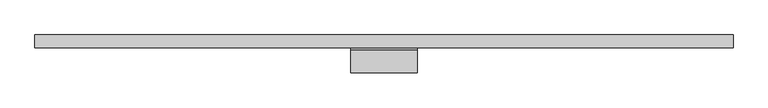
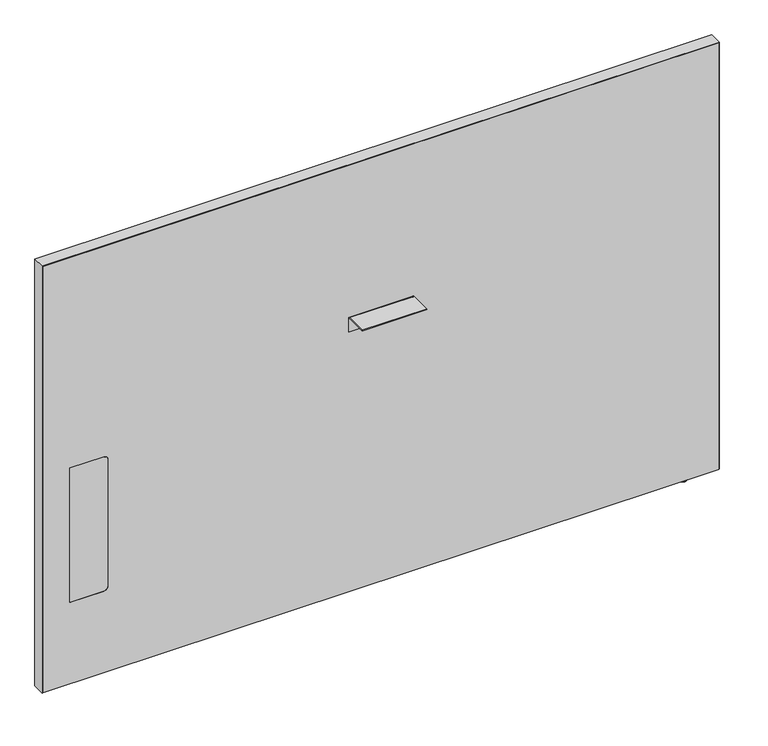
"""IFC4 building model written with IfcOpenShell, lengths in millimetres: furniture geometry, Steelcase - Answer Solution - Boundary Screen - Straight - Single Sided : 42H x 63W."""

from ifc_helpers import new_model, si_unit, point, frame, frame_2d, origin, place, context, project, spatial, polyline, circle_curve, ellipse_curve, trimmed, segment, composite_curve, outline, extrude, source, transform, mapped, element, save
from ifc_brep_helpers import plane_surface, cylinder_surface, revolved_surface, advanced_brep


def furniture_18e522d3(model_context):
    return source(origin(), model_context, "Body", "SolidModel", [
        extrude(outline(composite_curve([segment(polyline([(-86.8398151, 696.4680019), (-86.8398151, 698.5), (-34.9450855, 698.5)]), True, "CONTINUOUS"), segment(trimmed(circle_curve(frame_2d((-34.9450855, 693.2447477)), 5.2552523), [point((-34.9450855, 698.5))], [point((-29.6898332, 693.2447477))], False, "CARTESIAN"), True, "CONTINUOUS"), segment(polyline([(-29.6898332, 693.2447477), (-29.6898332, 660.4), (-31.7218162, 660.4), (-31.7218162, 693.0058743)]), True, "CONTINUOUS"), segment(trimmed(circle_curve(frame_2d((-35.1839438, 693.0058743)), 3.4621276), [point((-31.7218162, 693.0058743))], [point((-35.1839438, 696.4680019))], True, "CARTESIAN"), True, "CONTINUOUS"), segment(polyline([(-35.1839438, 696.4680019), (-86.8398151, 696.4680019)]), True, "CONTINUOUS")], self_intersect=False)), frame((77.4191407, 0.0, 0.0), z_axis=(1.0, 0.0, 0.0), x_axis=(0.0, 1.0, 0.0)), (0.0, 0.0, 1.0), 152.4000969),
        advanced_brep(
        [(876.5286488, -23.7588726, 9.9059849), (876.5286488, -5.9309607, 9.9059849), (876.5286488, -14.8449166, 9.9059849), (876.5286488, -23.7588726, 2.9673238), (876.5286488, -5.9309607, 2.9673238), (876.5286488, -22.7915354, 2.9673238), (876.5286488, -6.8982978, 2.9673238), (876.5286488, -22.7915354, 1.6569081), (876.5286488, -6.8982978, 1.6569081), (876.5286488, -21.1346274, 0.0), (876.5286488, -8.5552059, 0.0), (876.5286488, -14.8449166, 0.0)],
        [
            (0, 1, circle_curve(frame((876.5286488, -14.8449166, 9.9059849), z_axis=(0.0, 0.0, 1.0), x_axis=(0.0, 1.0, 0.0)), 8.913956)),
            (1, 2),
            (2, 0),
            (1, 0, circle_curve(frame((876.5286488, -14.8449166, 9.9059849), z_axis=(0.0, 0.0, 1.0), x_axis=(0.0, 1.0, 0.0)), 8.913956)),
            (3, 4, circle_curve(frame((876.5286488, -14.8449166, 2.9673238), z_axis=(0.0, 0.0, 1.0), x_axis=(0.0, 1.0, 0.0)), 8.913956)),
            (4, 1),
            (0, 3),
            (4, 3, circle_curve(frame((876.5286488, -14.8449166, 2.9673238), z_axis=(0.0, 0.0, 1.0), x_axis=(0.0, 1.0, 0.0)), 8.913956)),
            (5, 6, circle_curve(frame((876.5286488, -14.8449166, 2.9673238), z_axis=(0.0, 0.0, 1.0), x_axis=(0.0, 1.0, 0.0)), 7.9466188)),
            (6, 4),
            (3, 5),
            (6, 5, circle_curve(frame((876.5286488, -14.8449166, 2.9673238), z_axis=(0.0, 0.0, 1.0), x_axis=(0.0, 1.0, 0.0)), 7.9466188)),
            (7, 8, circle_curve(frame((876.5286488, -14.8449166, 1.6569081), z_axis=(0.0, 0.0, 1.0), x_axis=(0.0, 1.0, 0.0)), 7.9466188)),
            (8, 6),
            (5, 7),
            (8, 7, circle_curve(frame((876.5286488, -14.8449166, 1.6569081), z_axis=(0.0, 0.0, 1.0), x_axis=(0.0, 1.0, 0.0)), 7.9466188)),
            (9, 10, circle_curve(frame((876.5286488, -14.8449166, 0.0), z_axis=(0.0, 0.0, 1.0), x_axis=(0.0, 1.0, 0.0)), 6.2897107)),
            (10, 8, circle_curve(frame((876.5286488, -8.5552059, 1.6569081), z_axis=(1.0, 0.0, 0.0), x_axis=(0.0, 1.0, 0.0)), 1.6569081)),
            (7, 9, circle_curve(frame((876.5286488, -21.1346274, 1.6569081), z_axis=(1.0, 0.0, 0.0), x_axis=(0.0, -1.0, 0.0)), 1.6569081)),
            (10, 9, circle_curve(frame((876.5286488, -14.8449166, 0.0), z_axis=(0.0, 0.0, 1.0), x_axis=(0.0, 1.0, 0.0)), 6.2897107)),
            (11, 10),
            (9, 11),
        ],
        [
            plane_surface(frame((876.5286488, -14.8449166, 9.9059849), z_axis=(0.0, 0.0, 1.0), x_axis=(0.0, 1.0, 0.0))),
            cylinder_surface(frame((876.5286488, -14.8449166, 9.9059849), z_axis=(0.0, 0.0, -1.0), x_axis=(0.0, 1.0, 0.0)), 8.913956),
            plane_surface(frame((876.5286488, -14.8449166, 2.9673238), z_axis=(0.0, 0.0, -1.0), x_axis=(0.0, 1.0, 0.0))),
            cylinder_surface(frame((876.5286488, -14.8449166, 9.9059849), z_axis=(0.0, 0.0, -1.0), x_axis=(0.0, 1.0, 0.0)), 7.9466188),
            revolved_surface(trimmed(ellipse_curve(frame((876.5286488, -8.5552059, 1.6569081), z_axis=(-1.0, 0.0, 0.0), x_axis=(0.0, 1.0, 0.0)), 1.6569081, 1.6569081), [point((876.5286488, -6.8982978, 1.6569081))], [point((876.5286488, -8.5552059, 0.0))], True, "CARTESIAN"), (876.5286488, -14.8449166, 9.9059849), (0.0, 0.0, -1.0)),
            plane_surface(frame((876.5286488, -14.8449166, 0.0), z_axis=(0.0, 0.0, -1.0), x_axis=(0.0, 1.0, 0.0))),
        ],
        [
            (0, [[1, 2, 3]]),
            (0, [[4, -3, -2]]),
            (1, [[5, 6, -1, 7]]),
            (1, [[8, -7, -4, -6]]),
            (2, [[9, 10, -5, 11]]),
            (2, [[12, -11, -8, -10]]),
            (3, [[13, 14, -9, 15]]),
            (3, [[16, -15, -12, -14]]),
            (4, [[17, 18, -13, 19]]),
            (4, [[20, -19, -16, -18]]),
            (5, [[21, -17, 22]]),
            (5, [[-22, -20, -21]]),
        ],
    ),
        advanced_brep(
        [(952.6780168, 0.0, 1076.742118), (952.6780168, 0.0, 9.9059849), (-645.4902221, 0.0, 9.9059849), (-645.4902221, 0.0, 1076.742118), (952.6780168, -29.6898332, 1076.742118), (-645.4902221, -29.6898332, 1076.742118), (-645.4902221, -29.6898332, 9.9059849), (952.6780168, -29.6898332, 9.9059849), (-501.1463873, -29.6898332, 549.6162029), (-490.9863873, -29.6898332, 539.4562029), (-490.9863873, -29.6898332, 223.9362137), (-501.1463873, -29.6898332, 213.7762137), (-580.800285, -29.6898332, 213.7762137), (-580.800285, -29.6898332, 549.6162029), (-580.800285, -29.0550397, 549.6162029), (-501.1463873, -29.0550397, 549.6162029), (-580.800285, -29.0550397, 213.7762137), (-501.1463873, -29.0550397, 213.7762137), (-490.9863873, -29.0550397, 223.9362137), (-490.9863873, -29.0550397, 539.4562029)],
        [
            (0, 1),
            (1, 2),
            (2, 3),
            (3, 0),
            (4, 5),
            (5, 6),
            (6, 7),
            (7, 4),
            (8, 9, circle_curve(frame((-501.1463873, -29.6898332, 539.4562029), z_axis=(0.0, 1.0, 0.0), x_axis=(0.0, 0.0, 1.0)), 10.16)),
            (9, 10),
            (10, 11, circle_curve(frame((-501.1463873, -29.6898332, 223.9362137), z_axis=(0.0, 1.0, 0.0), x_axis=(0.0, 0.0, 1.0)), 10.16)),
            (11, 12),
            (12, 13),
            (13, 8),
            (0, 4),
            (7, 1),
            (6, 2),
            (5, 3),
            (13, 14),
            (14, 15),
            (15, 8),
            (12, 16),
            (16, 14),
            (11, 17),
            (17, 16),
            (10, 18),
            (18, 17, circle_curve(frame((-501.1463873, -29.0550397, 223.9362137), z_axis=(0.0, 1.0, 0.0), x_axis=(0.0, 0.0, 1.0)), 10.16)),
            (9, 19),
            (19, 18),
            (15, 19, circle_curve(frame((-501.1463873, -29.0550397, 539.4562029), z_axis=(0.0, 1.0, 0.0), x_axis=(0.0, 0.0, 1.0)), 10.16)),
        ],
        [
            plane_surface(frame((952.6780168, 0.0, 1076.742118), z_axis=(0.0, 1.0, 0.0), x_axis=(0.0, 0.0, -1.0))),
            plane_surface(frame((952.6780168, -29.6898332, 1076.742118), z_axis=(0.0, -1.0, 0.0), x_axis=(0.0, 0.0, 1.0))),
            plane_surface(frame((952.6780168, 0.0, 1076.742118), z_axis=(1.0, 0.0, 0.0), x_axis=(0.0, -1.0, 0.0))),
            plane_surface(frame((952.6780168, 0.0, 9.9059849), z_axis=(0.0, 0.0, -1.0), x_axis=(0.0, -1.0, 0.0))),
            plane_surface(frame((-645.4902221, 0.0, 9.9059849), z_axis=(-1.0, 0.0, 0.0), x_axis=(0.0, -1.0, 0.0))),
            plane_surface(frame((-645.4902221, 0.0, 1076.742118), z_axis=(0.0, 0.0, 1.0), x_axis=(0.0, -1.0, 0.0))),
            plane_surface(frame((-501.1463873, 0.0, 549.6162029), z_axis=(0.0, 0.0, -1.0), x_axis=(0.0, -1.0, 0.0))),
            plane_surface(frame((-580.800285, 0.0, 549.6162029), z_axis=(1.0, 0.0, 0.0), x_axis=(0.0, -1.0, 0.0))),
            plane_surface(frame((-580.800285, 0.0, 213.7762137), z_axis=(0.0, 0.0, 1.0), x_axis=(0.0, -1.0, 0.0))),
            revolved_surface(polyline([(-501.1463873, -29.6898332, 234.0962137), (-501.1463873, -29.0550397, 234.0962137)]), (-501.1463873, -29.6898332, 223.9362137), (0.0, -1.0, 0.0)),
            plane_surface(frame((-490.9863873, 0.0, 223.9362137), z_axis=(-1.0, 0.0, 0.0), x_axis=(0.0, -1.0, 0.0))),
            revolved_surface(polyline([(-501.1463873, -29.6898332, 549.6162029), (-501.1463873, -29.0550397, 549.6162029)]), (-501.1463873, -29.6898332, 539.4562029), (0.0, -1.0, 0.0)),
            plane_surface(frame((-490.9863873, -29.0550397, 629.172953), z_axis=(0.0, -1.0, 0.0), x_axis=(0.0, 0.0, 1.0))),
        ],
        [
            (0, [[1, 2, 3, 4]]),
            (1, [[5, 6, 7, 8], [9, 10, 11, 12, 13, 14]]),
            (2, [[-1, 15, -8, 16]]),
            (3, [[-2, -16, -7, 17]]),
            (4, [[-3, -17, -6, 18]]),
            (5, [[-4, -18, -5, -15]]),
            (6, [[-14, 19, 20, 21]]),
            (7, [[-13, 22, 23, -19]]),
            (8, [[-12, 24, 25, -22]]),
            (9, [[-11, 26, 27, -24]]),
            (10, [[-10, 28, 29, -26]]),
            (11, [[-9, -21, 30, -28]]),
            (12, [[-20, -23, -25, -27, -29, -30]]),
        ],
    ),
        extrude(outline(composite_curve([segment(polyline([(549.6162029, -501.1463873), (549.6162029, -580.800285), (213.7762137, -580.800285), (213.7762137, -501.1463873)]), True, "CONTINUOUS"), segment(trimmed(circle_curve(frame_2d((223.9362137, -501.1463873)), 10.16), [point((213.7762137, -501.1463873))], [point((223.9362137, -490.9863873))], False, "CARTESIAN"), True, "CONTINUOUS"), segment(polyline([(223.9362137, -490.9863873), (539.4562029, -490.9863873)]), True, "CONTINUOUS"), segment(trimmed(circle_curve(frame_2d((539.4562029, -501.1463873)), 10.16), [point((539.4562029, -490.9863873))], [point((549.6162029, -501.1463873))], False, "CARTESIAN"), True, "CONTINUOUS")], self_intersect=False)), frame((0.0, -29.6898332, 0.0), z_axis=(0.0, 1.0, 0.0), x_axis=(0.0, 0.0, 1.0)), (0.0, 0.0, 1.0), 0.6347935),
        extrude(outline(polyline([(1077.722, 953.7191891), (1077.722, -646.4808109), (9.9059849, -646.4808109), (9.9059849, -645.4902221), (1076.742118, -645.4902221), (1076.742118, 952.6780168), (9.9059849, 952.6780168), (9.9059849, 953.7191891), (1077.722, 953.7191891)])), frame((0.0, -29.6898332, 0.0), z_axis=(0.0, 1.0, 0.0), x_axis=(0.0, 0.0, 1.0)), (0.0, 0.0, 1.0), 29.6898332),
    ])


if __name__ == "__main__":
    model = new_model("IFC4")
    model_context = context("Model", 3, world=origin())
    ifc_project = project(units=[si_unit("LENGTHUNIT", "METRE", prefix="MILLI")], contexts=[model_context])
    site = spatial("IfcSite", under=ifc_project)
    building = spatial("IfcBuilding", under=site)
    placement = place(None, origin())
    furniture_shape = furniture_18e522d3(model_context)
    element("IfcFurniture", 1, ObjectType="Steelcase - Answer Solution - Boundary Screen - Straight - Single Sided : 42H x 63W", at=placement, inside=building, context=model_context, shape_type="MappedRepresentation", body=[
        mapped(furniture_shape, transform((0.0, 0.0, 0.0), x_axis=(1.0, 0.0, 0.0), y_axis=(0.0, 1.0, 0.0), z_axis=(0.0, 0.0, 1.0))),
    ])
    save(model, "model.ifc")
